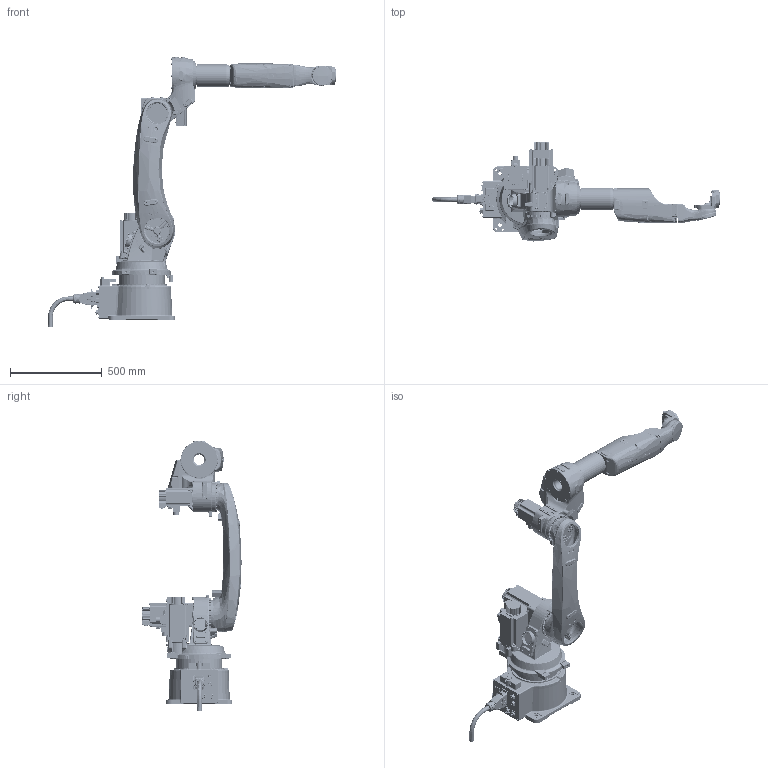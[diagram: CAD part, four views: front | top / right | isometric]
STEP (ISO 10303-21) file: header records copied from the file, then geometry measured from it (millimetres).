
FILE_DESCRIPTION(/* description */ (''),/* implementation_level */ '2;1');
FILE_NAME(/* name */ 'NB12h-1016 简化模型.stp',/* time_stamp */ '2025-12-12T09:47:00+08:00',/* author */ (''),/* organization */ (''),/* preprocessor_version */ 'ST-DEVELOPER v16',/* originating_system */ 'SIEMENS PLM Software NX 10.0',/* authorisation */ '');
FILE_SCHEMA (('CONFIG_CONTROL_DESIGN'));
Length unit declared in the file: millimetre
Products named in the file (10): NB12h-logo; NB12h-3Dwork-B; NB12h-yao-A; NB12h-xiaobihou-A; NB12h-shuchu-A; NB12h-shouwan-A; NB12h-dabi-A; NB12h-base-A; NB12h-xiaobiqian-B_MODEL; NB12h-1016
Assembly tree (9 placements, depth 3):
  NB12h-1016
    NB12h-base-A
    NB12h-dabi-A
    NB12h-shouwan-A
    NB12h-shuchu-A
    NB12h-xiaobihou-A
    NB12h-xiaobiqian-B_MODEL
      NB12h-logo
    NB12h-yao-A
    NB12h-3Dwork-B
Bounding box: 1570.79 x 540.69 x 1476.66 mm (x, y, z)
Volume: 67047649 mm3; surface area: 3263625.4 mm2
Topology: 15 solids, 27 shells, 9232 faces, 23031 edges, 13916 vertices
Faces by surface type: plane 2898, cylinder 2754, bspline 1930, cone 612, torus 530, sphere 353, extrusion 155
Full cylindrical faces by diameter (mm): 3.3 x11, 3.838 x1, 4 x2, 4.2 x10, 4.5 x1, 4.75 x4, 5.1 x4, 5.13 x8, 5.5 x19, 6 x1, 6.725 x4, 6.8 x8, 7 x26, 7.2 x6, 7.5 x8, 7.782 x1, 8 x8, 8.5 x11, 9 x1, 10 x60, 10.3 x9, 13 x58, 13.8 x1, 14 x4, 15.2 x3, 16 x6, 17 x5, 18 x5, 25 x2, 32 x1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
Entity records: 381866 total; most frequent: CARTESIAN_POINT 183738, ORIENTED_EDGE 43540, DIRECTION 37133, EDGE_CURVE 21770, AXIS2_PLACEMENT_3D 14801, VERTEX_POINT 13606, EDGE_LOOP 10294, ADVANCED_FACE 9232
